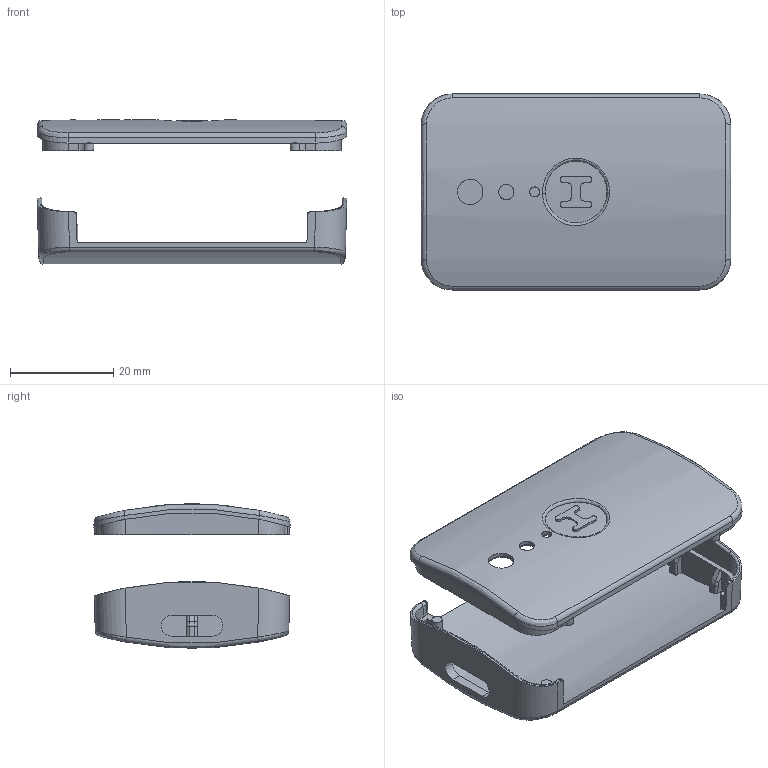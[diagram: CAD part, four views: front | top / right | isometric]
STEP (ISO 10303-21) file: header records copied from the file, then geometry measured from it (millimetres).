
FILE_DESCRIPTION(/* description */ (''),/* implementation_level */ '2;1');
FILE_NAME(/* name */ 'CP1.stp',/* time_stamp */ '2019-04-16T17:46:59+08:00',/* author */ (''),/* organization */ (''),/* preprocessor_version */ 'ST-DEVELOPER v16',/* originating_system */ 'SIEMENS PLM Software NX 10.0',/* authorisation */ '');
FILE_SCHEMA (('AUTOMOTIVE_DESIGN { 1 0 10303 214 3 1 1 1 }'));
Length unit declared in the file: millimetre
Products named in the file (3): CP_id10_x_t; CP_id6_x_t; CP_x_t
Assembly tree (2 placements, depth 2):
  CP_x_t
    CP_id6_x_t
    CP_id10_x_t
Bounding box: 60 x 38 x 27.93 mm (x, y, z)
Volume: 7743.8 mm3; surface area: 12027.5 mm2
Topology: 2 solids, 2 shells, 285 faces, 744 edges, 471 vertices
Faces by surface type: bspline 98, plane 88, cylinder 75, cone 14, torus 6, sphere 4
Full cylindrical faces by diameter (mm): 2 x2
Entity records: 15588 total; most frequent: CARTESIAN_POINT 7301, ORIENTED_EDGE 1420, DIRECTION 1070, EDGE_CURVE 710, VERTEX_POINT 455, AXIS2_PLACEMENT_3D 376, EDGE_LOOP 319, LINE 318
